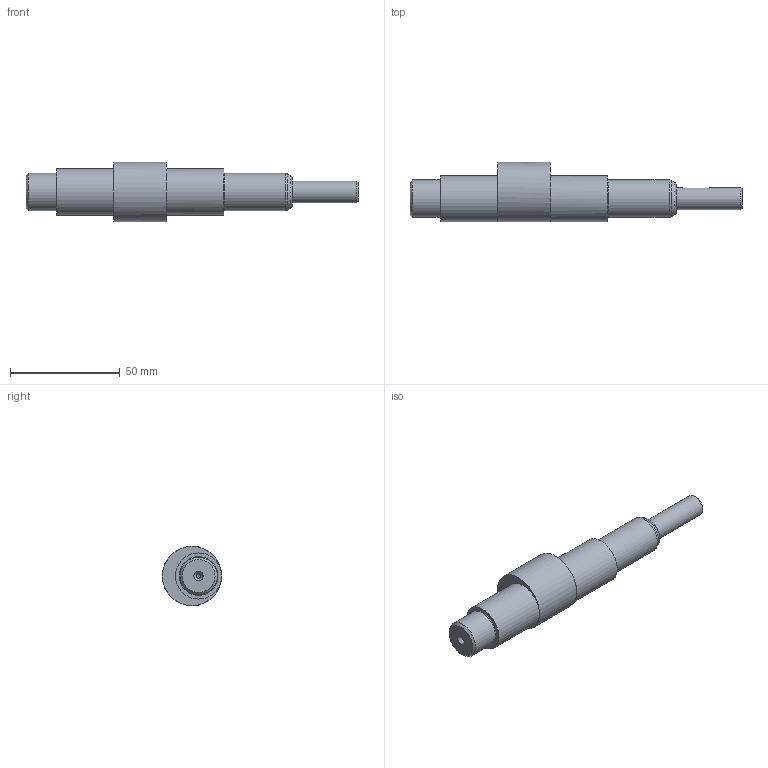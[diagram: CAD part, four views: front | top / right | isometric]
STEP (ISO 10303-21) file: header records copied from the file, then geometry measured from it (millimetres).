
FILE_DESCRIPTION(/* description */ (''),/* implementation_level */ '2;1');
FILE_NAME(/* name */ '',/* time_stamp */ '2024-09-02T11:23:20+09:00',/* author */ ('jhkim'),/* organization */ (''),/* preprocessor_version */ 'ST-DEVELOPER v20',/* originating_system */ 'Autodesk Inventor 2025',/* authorisation */ '');
FILE_SCHEMA (('AUTOMOTIVE_DESIGN { 1 0 10303 214 3 1 1 }'));
Length unit declared in the file: millimetre
Products named in the file (1): 편심축
Bounding box: 151 x 27 x 27 mm (x, y, z)
Volume: 44074.2 mm3; surface area: 9935.5 mm2
Topology: 1 solids, 1 shells, 31 faces, 66 edges, 41 vertices
Faces by surface type: cylinder 10, plane 10, cone 7, torus 4
Full cylindrical faces by diameter (mm): 2 x2, 10 x1, 17 x2, 21 x2, 27 x1
Entity records: 906 total; most frequent: CARTESIAN_POINT 173, DIRECTION 161, ORIENTED_EDGE 128, AXIS2_PLACEMENT_3D 69, EDGE_CURVE 64, VERTEX_POINT 41, EDGE_LOOP 37, CIRCLE 37
